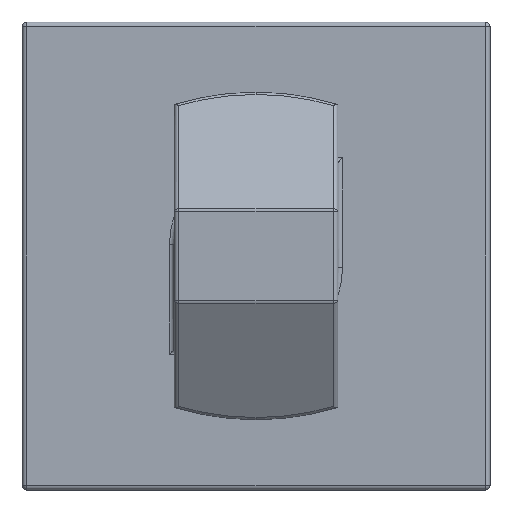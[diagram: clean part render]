
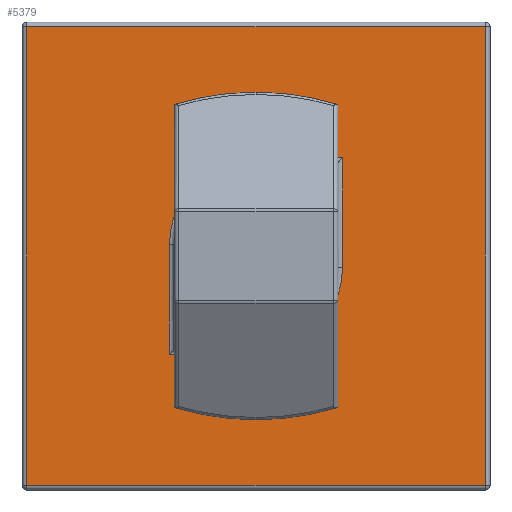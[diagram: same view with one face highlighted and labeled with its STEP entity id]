
A CAD part, front view. The second image highlights one B-rep face of the part: STEP entity #5379.
In plain terms, the highlighted planar face has unit normal (0, -1, 0).
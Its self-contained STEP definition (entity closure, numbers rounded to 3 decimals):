
#43 = AXIS2_PLACEMENT_3D ( 'NONE', #4269, #5207, #3757 ) ;
#79 = EDGE_LOOP ( 'NONE', ( #5854, #5520, #2499, #1860, #683, #4499 ) ) ;
#123 = VERTEX_POINT ( 'NONE', #1517 ) ;
#133 = DIRECTION ( 'NONE',  ( -1., 0., 0. ) ) ;
#408 = CARTESIAN_POINT ( 'NONE',  ( 10., 0., -14.2 ) ) ;
#443 = VECTOR ( 'NONE', #2520, 1000. ) ;
#588 = CARTESIAN_POINT ( 'NONE',  ( 6.3, 0., -20. ) ) ;
#594 = VECTOR ( 'NONE', #3005, 1000. ) ;
#644 = VERTEX_POINT ( 'NONE', #1936 ) ;
#657 = ORIENTED_EDGE ( 'NONE', *, *, #4279, .T. ) ;
#683 = ORIENTED_EDGE ( 'NONE', *, *, #3887, .T. ) ;
#848 = EDGE_LOOP ( 'NONE', ( #3966, #6016, #657, #4200 ) ) ;
#971 = VERTEX_POINT ( 'NONE', #3064 ) ;
#1063 = LINE ( 'NONE', #2933, #1199 ) ;
#1091 = DIRECTION ( 'NONE',  ( 0., -1., 0. ) ) ;
#1199 = VECTOR ( 'NONE', #133, 1000. ) ;
#1215 = EDGE_CURVE ( 'NONE', #2182, #123, #3017, .T. ) ;
#1517 = CARTESIAN_POINT ( 'NONE',  ( 13.7, 0., -5.8 ) ) ;
#1520 = PLANE ( 'NONE',  #1636 ) ;
#1552 = DIRECTION ( 'NONE',  ( 0., 0., -1. ) ) ;
#1603 = LINE ( 'NONE', #3860, #443 ) ;
#1629 = EDGE_CURVE ( 'NONE', #3729, #2558, #5756, .T. ) ;
#1636 = AXIS2_PLACEMENT_3D ( 'NONE', #3837, #1091, #1552 ) ;
#1639 = DIRECTION ( 'NONE',  ( 1., 0., 0. ) ) ;
#1644 = DIRECTION ( 'NONE',  ( 1., 0., 0. ) ) ;
#1680 = CARTESIAN_POINT ( 'NONE',  ( 10., 0., -5.8 ) ) ;
#1761 = VECTOR ( 'NONE', #1639, 1000. ) ;
#1860 = ORIENTED_EDGE ( 'NONE', *, *, #1629, .T. ) ;
#1915 = CARTESIAN_POINT ( 'NONE',  ( 19.8, 0., -0.2 ) ) ;
#1936 = CARTESIAN_POINT ( 'NONE',  ( 19.8, 0., -19.8 ) ) ;
#2087 = CARTESIAN_POINT ( 'NONE',  ( 6.3, 0., -14.2 ) ) ;
#2101 = CARTESIAN_POINT ( 'NONE',  ( 20., 0., -19.8 ) ) ;
#2182 = VERTEX_POINT ( 'NONE', #1680 ) ;
#2307 = CIRCLE ( 'NONE', #4923, 3.7 ) ;
#2313 = LINE ( 'NONE', #3814, #4247 ) ;
#2419 = EDGE_CURVE ( 'NONE', #4266, #3729, #1063, .T. ) ;
#2442 = CARTESIAN_POINT ( 'NONE',  ( 0., 0., -5.8 ) ) ;
#2469 = VERTEX_POINT ( 'NONE', #4404 ) ;
#2499 = ORIENTED_EDGE ( 'NONE', *, *, #2419, .T. ) ;
#2520 = DIRECTION ( 'NONE',  ( 0., 0., -1. ) ) ;
#2558 = VERTEX_POINT ( 'NONE', #3595 ) ;
#2685 = CIRCLE ( 'NONE', #43, 3.7 ) ;
#2753 = LINE ( 'NONE', #4539, #5128 ) ;
#2933 = CARTESIAN_POINT ( 'NONE',  ( 0., 0., -14.2 ) ) ;
#3005 = DIRECTION ( 'NONE',  ( 0., 0., 1. ) ) ;
#3017 = LINE ( 'NONE', #2442, #1761 ) ;
#3064 = CARTESIAN_POINT ( 'NONE',  ( 0.2, 0., -0.2 ) ) ;
#3289 = VECTOR ( 'NONE', #1644, 1000. ) ;
#3595 = CARTESIAN_POINT ( 'NONE',  ( 6.3, 0., -9.5 ) ) ;
#3729 = VERTEX_POINT ( 'NONE', #2087 ) ;
#3746 = LINE ( 'NONE', #4291, #5812 ) ;
#3757 = DIRECTION ( 'NONE',  ( 0., 0., -1. ) ) ;
#3814 = CARTESIAN_POINT ( 'NONE',  ( 0., 0., -0.2 ) ) ;
#3837 = CARTESIAN_POINT ( 'NONE',  ( 0., 0., -20. ) ) ;
#3860 = CARTESIAN_POINT ( 'NONE',  ( 0.2, 0., -20. ) ) ;
#3887 = EDGE_CURVE ( 'NONE', #2558, #2182, #2685, .T. ) ;
#3966 = ORIENTED_EDGE ( 'NONE', *, *, #4451, .T. ) ;
#4178 = DIRECTION ( 'NONE',  ( 0., 1., 0. ) ) ;
#4195 = DIRECTION ( 'NONE',  ( 0., 0., -1. ) ) ;
#4200 = ORIENTED_EDGE ( 'NONE', *, *, #4798, .T. ) ;
#4247 = VECTOR ( 'NONE', #5524, 1000. ) ;
#4259 = FACE_OUTER_BOUND ( 'NONE', #848, .T. ) ;
#4266 = VERTEX_POINT ( 'NONE', #408 ) ;
#4269 = CARTESIAN_POINT ( 'NONE',  ( 10., 0., -9.5 ) ) ;
#4279 = EDGE_CURVE ( 'NONE', #5418, #971, #2313, .T. ) ;
#4291 = CARTESIAN_POINT ( 'NONE',  ( 13.7, 0., -20. ) ) ;
#4303 = DIRECTION ( 'NONE',  ( 0., 0., -1. ) ) ;
#4318 = FACE_BOUND ( 'NONE', #79, .T. ) ;
#4404 = CARTESIAN_POINT ( 'NONE',  ( 13.7, 0., -10.5 ) ) ;
#4425 = CARTESIAN_POINT ( 'NONE',  ( 0.2, 0., -19.8 ) ) ;
#4451 = EDGE_CURVE ( 'NONE', #5042, #644, #5744, .T. ) ;
#4499 = ORIENTED_EDGE ( 'NONE', *, *, #1215, .T. ) ;
#4539 = CARTESIAN_POINT ( 'NONE',  ( 19.8, 0., 0. ) ) ;
#4719 = CARTESIAN_POINT ( 'NONE',  ( 10., 0., -10.5 ) ) ;
#4798 = EDGE_CURVE ( 'NONE', #971, #5042, #1603, .T. ) ;
#4923 = AXIS2_PLACEMENT_3D ( 'NONE', #4719, #4178, #4303 ) ;
#5042 = VERTEX_POINT ( 'NONE', #4425 ) ;
#5046 = EDGE_CURVE ( 'NONE', #644, #5418, #2753, .T. ) ;
#5059 = DIRECTION ( 'NONE',  ( 0., 0., 1. ) ) ;
#5119 = EDGE_CURVE ( 'NONE', #2469, #4266, #2307, .T. ) ;
#5128 = VECTOR ( 'NONE', #5059, 1000. ) ;
#5207 = DIRECTION ( 'NONE',  ( 0., 1., 0. ) ) ;
#5379 = ADVANCED_FACE ( 'NONE', ( #4318, #4259 ), #1520, .T. ) ;
#5394 = EDGE_CURVE ( 'NONE', #123, #2469, #3746, .T. ) ;
#5418 = VERTEX_POINT ( 'NONE', #1915 ) ;
#5520 = ORIENTED_EDGE ( 'NONE', *, *, #5119, .T. ) ;
#5524 = DIRECTION ( 'NONE',  ( -1., 0., 0. ) ) ;
#5744 = LINE ( 'NONE', #2101, #3289 ) ;
#5756 = LINE ( 'NONE', #588, #594 ) ;
#5812 = VECTOR ( 'NONE', #4195, 1000. ) ;
#5854 = ORIENTED_EDGE ( 'NONE', *, *, #5394, .T. ) ;
#6016 = ORIENTED_EDGE ( 'NONE', *, *, #5046, .T. ) ;
